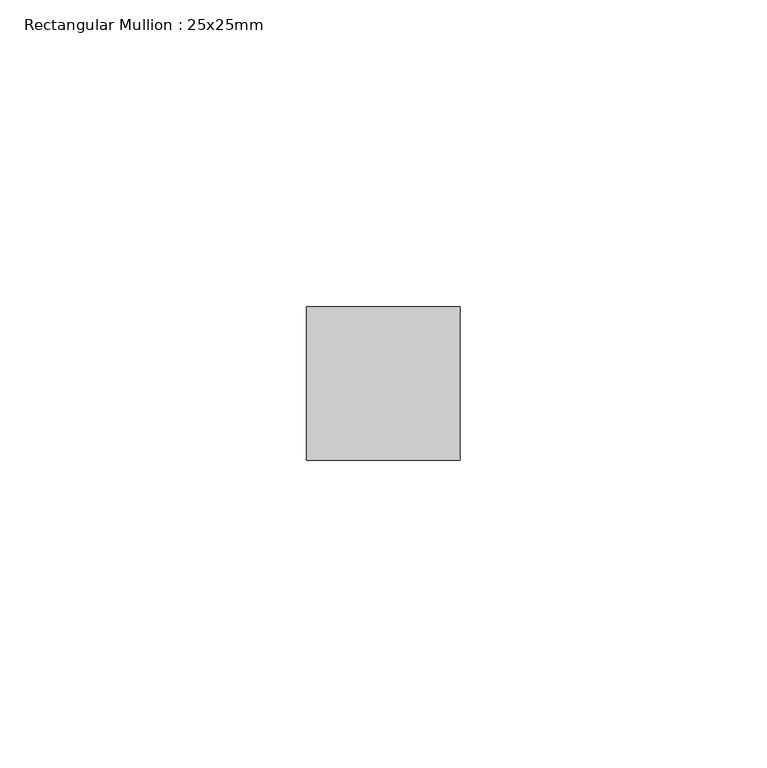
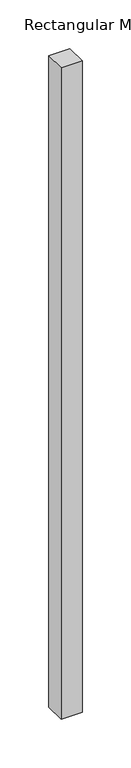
"""IFC4 building model written with IfcOpenShell, lengths in millimetres: member geometry, Rectangular Mullion : 25x25mm."""

from ifc_helpers import new_model, si_unit, frame, origin, place, context, project, spatial, polyline, outline, extrude, source, transform, mapped, element, save


def rectangular_mullion_25x25mm_ababed0b(model_context):
    return source(origin(), model_context, "Body", "SweptSolid", [
        extrude(outline(polyline([(12.5, 0.5), (12.5, -24.5), (-12.5, -24.5), (-12.5, 0.5), (12.5, 0.5)])), frame((0.0, 0.0, -814.4300002), z_axis=(0.0, 0.0, 1.0), x_axis=(1.0, 0.0, 0.0)), (0.0, 0.0, 1.0), 814.4300002),
    ])


if __name__ == "__main__":
    model = new_model("IFC4")
    model_context = context("Model", 3, world=origin())
    ifc_project = project(units=[si_unit("LENGTHUNIT", "METRE", prefix="MILLI")], contexts=[model_context])
    site = spatial("IfcSite", under=ifc_project)
    building = spatial("IfcBuilding", under=site)
    placement = place(None, origin())
    rectangular_mullion_25x25mm_shape = rectangular_mullion_25x25mm_ababed0b(model_context)
    element("IfcMember", 1, ObjectType="Rectangular Mullion : 25x25mm", at=placement, inside=building, context=model_context, shape_type="MappedRepresentation", body=[
        mapped(rectangular_mullion_25x25mm_shape, transform((0.0, 0.0, 0.0), x_axis=(1.0, 0.0, 0.0), y_axis=(0.0, 1.0, 0.0), z_axis=(0.0, 0.0, 1.0))),
    ])
    save(model, "model.ifc")
